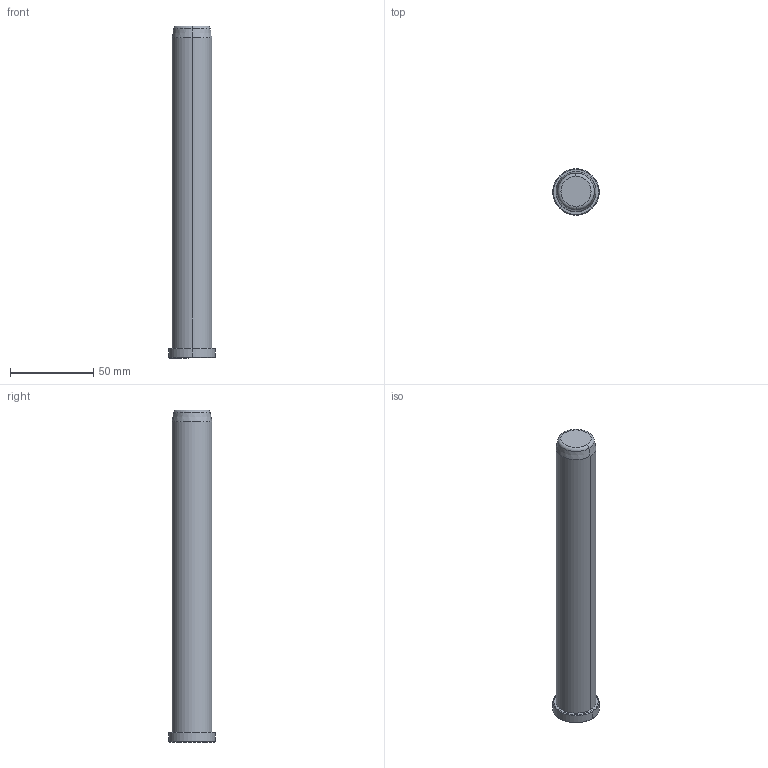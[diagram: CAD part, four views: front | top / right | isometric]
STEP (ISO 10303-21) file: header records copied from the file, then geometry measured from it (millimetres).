
FILE_DESCRIPTION((''),'2;1');
FILE_NAME('B81824200','2018-01-06T',('MANU'),(''),'PRO/ENGINEER BY PARAMETRIC TECHNOLOGY CORPORATION, 2012130','PRO/ENGINEER BY PARAMETRIC TECHNOLOGY CORPORATION, 2012130','');
FILE_SCHEMA(('CONFIG_CONTROL_DESIGN'));
Length unit declared in the file: millimetre
Products named in the file (1): B81824200
Bounding box: 28 x 28 x 200 mm (x, y, z)
Volume: 91084.7 mm3; surface area: 16187.2 mm2
Topology: 1 solids, 1 shells, 15 faces, 28 edges, 16 vertices
Faces by surface type: cone 6, cylinder 4, plane 3, torus 2
Entity records: 414 total; most frequent: DIRECTION 76, CARTESIAN_POINT 59, ORIENTED_EDGE 56, AXIS2_PLACEMENT_3D 33, EDGE_CURVE 28, CIRCLE 18, VERTEX_POINT 16, EDGE_LOOP 16
